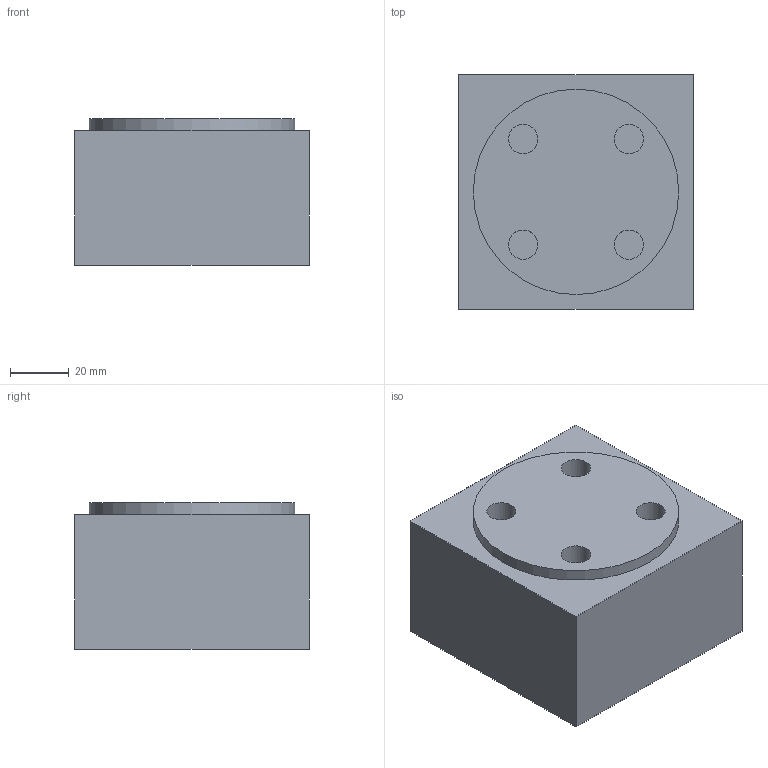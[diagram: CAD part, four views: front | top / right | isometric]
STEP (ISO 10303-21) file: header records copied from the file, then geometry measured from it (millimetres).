
FILE_DESCRIPTION(/* description */ (''),/* implementation_level */ '2;1');
FILE_NAME(/* name */ '4.step',/* time_stamp */ '2025-09-02T11:26:11+02:00',/* author */ (''),/* organization */ (''),/* preprocessor_version */ 'ST-DEVELOPER v20.1',/* originating_system */ 'Autodesk Translation Framework v14.10.0.0',/* authorisation */ '');
FILE_SCHEMA (('AUTOMOTIVE_DESIGN { 1 0 10303 214 3 1 1 }'));
Length unit declared in the file: millimetre
Products named in the file (1): Stufe 3
Bounding box: 80 x 80 x 50 mm (x, y, z)
Volume: 307594.7 mm3; surface area: 29279.3 mm2
Topology: 1 solids, 1 shells, 16 faces, 27 edges, 18 vertices
Faces by surface type: plane 11, cylinder 5
Full cylindrical faces by diameter (mm): 10 x4, 70 x1
Entity records: 414 total; most frequent: DIRECTION 71, CARTESIAN_POINT 62, ORIENTED_EDGE 54, EDGE_CURVE 27, AXIS2_PLACEMENT_3D 27, EDGE_LOOP 21, VERTEX_POINT 18, LINE 17
